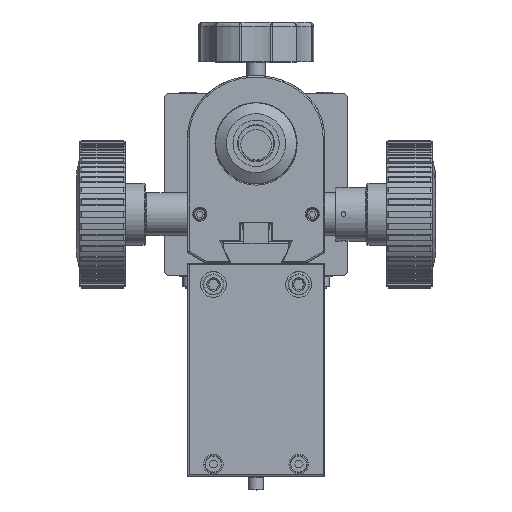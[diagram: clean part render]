
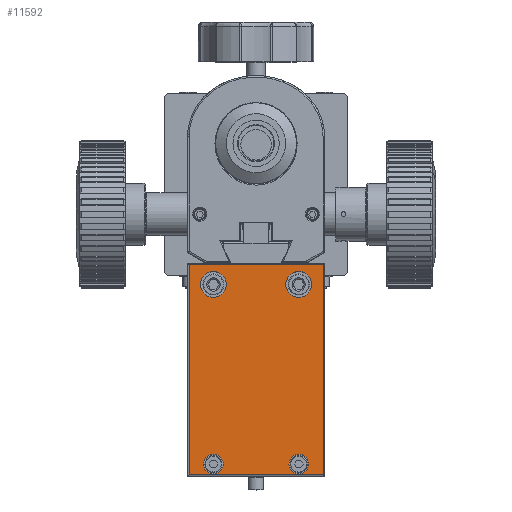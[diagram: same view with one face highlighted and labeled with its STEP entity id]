
A CAD part, top view. The second image highlights one B-rep face of the part: STEP entity #11592.
In plain terms, the highlighted planar face has unit normal (0, 0, 1).
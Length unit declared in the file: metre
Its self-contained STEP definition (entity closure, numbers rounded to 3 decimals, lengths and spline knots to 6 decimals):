
#11592=ADVANCED_FACE('0:9597',(#27209,#27210,#27211,#27212,#27213),#27214,.T.);
#13628=EDGE_CURVE('0:13283',#30377,#30380,#30381,.T.);
#13654=EDGE_CURVE('0:13259',#30380,#30418,#30419,.T.);
#13912=EDGE_CURVE('0:13232',#30418,#30793,#30794,.T.);
#15836=EDGE_CURVE('0:13301',#33525,#33525,#33526,.T.);
#16322=EDGE_CURVE('0:13211',#30793,#30377,#34171,.T.);
#16324=EDGE_CURVE('0:13307',#34173,#34173,#34174,.T.);
#16326=EDGE_CURVE('0:13313',#34176,#34176,#34177,.T.);
#16328=EDGE_CURVE('0:13319',#34179,#34179,#34180,.T.);
#27209=FACE_OUTER_BOUND('',#61879,.T.);
#27210=FACE_BOUND('',#61880,.T.);
#27211=FACE_BOUND('',#61881,.T.);
#27212=FACE_BOUND('',#61882,.T.);
#27213=FACE_BOUND('',#61883,.T.);
#27214=PLANE('',#61884);
#30377=VERTEX_POINT('',#76756);
#30380=VERTEX_POINT('',#76760);
#30381=LINE('',#76761,#76762);
#30418=VERTEX_POINT('',#76820);
#30419=LINE('',#76821,#76822);
#30793=VERTEX_POINT('',#77678);
#30794=LINE('',#77679,#77680);
#33525=VERTEX_POINT('',#83212);
#33526=CIRCLE('',#83213,0.00425);
#34171=LINE('',#84419,#84420);
#34173=VERTEX_POINT('',#84423);
#34174=CIRCLE('',#84424,0.00425);
#34176=VERTEX_POINT('',#84427);
#34177=CIRCLE('',#84428,0.0032);
#34179=VERTEX_POINT('',#84431);
#34180=CIRCLE('',#84432,0.0032);
#61879=EDGE_LOOP('',(#128492,#128493,#128494,#128495));
#61880=EDGE_LOOP('',(#128496));
#61881=EDGE_LOOP('',(#128497));
#61882=EDGE_LOOP('',(#128498));
#61883=EDGE_LOOP('',(#128499));
#61884=AXIS2_PLACEMENT_3D('',#128500,#128501,#128502);
#76756=CARTESIAN_POINT('',(0.02069,-0.006226,0.265215));
#76760=CARTESIAN_POINT('',(-0.02331,-0.006226,0.265215));
#76761=CARTESIAN_POINT('',(-0.026665,-0.006226,0.265215));
#76762=VECTOR('',#136767,1.0);
#76820=CARTESIAN_POINT('',(-0.02331,0.062774,0.265215));
#76821=CARTESIAN_POINT('',(-0.02331,0.013774,0.265215));
#76822=VECTOR('',#136788,1.0);
#77678=CARTESIAN_POINT('',(0.02069,0.062774,0.265215));
#77679=CARTESIAN_POINT('',(-0.026665,0.062774,0.265215));
#77680=VECTOR('',#136986,1.0);
#83212=CARTESIAN_POINT('',(-0.01956,0.056274,0.265215));
#83213=AXIS2_PLACEMENT_3D('',#138417,#138418,#138419);
#84419=CARTESIAN_POINT('',(0.02069,0.013774,0.265215));
#84420=VECTOR('',#138818,1.0);
#84423=CARTESIAN_POINT('',(0.00844,0.056274,0.265215));
#84424=AXIS2_PLACEMENT_3D('',#138819,#138820,#138821);
#84427=CARTESIAN_POINT('',(-0.01851,-0.002726,0.265215));
#84428=AXIS2_PLACEMENT_3D('',#138822,#138823,#138824);
#84431=CARTESIAN_POINT('',(0.00949,-0.002726,0.265215));
#84432=AXIS2_PLACEMENT_3D('',#138825,#138826,#138827);
#128492=ORIENTED_EDGE('',*,*,#16322,.F.);
#128493=ORIENTED_EDGE('',*,*,#13912,.F.);
#128494=ORIENTED_EDGE('',*,*,#13654,.F.);
#128495=ORIENTED_EDGE('',*,*,#13628,.F.);
#128496=ORIENTED_EDGE('',*,*,#15836,.F.);
#128497=ORIENTED_EDGE('',*,*,#16324,.F.);
#128498=ORIENTED_EDGE('',*,*,#16326,.F.);
#128499=ORIENTED_EDGE('',*,*,#16328,.F.);
#128500=CARTESIAN_POINT('',(-0.05202,-0.000726,0.265215));
#128501=DIRECTION('',(0.0,0.,1.0));
#128502=DIRECTION('',(0.0,-1.0,0.));
#136767=DIRECTION('',(-1.0,0.,0.));
#136788=DIRECTION('',(0.,1.0,0.));
#136986=DIRECTION('',(1.0,0.,0.));
#138417=CARTESIAN_POINT('',(-0.01531,0.056274,0.265215));
#138418=DIRECTION('',(0.,0.,1.0));
#138419=DIRECTION('',(-1.0,0.,0.));
#138818=DIRECTION('',(0.,-1.0,0.));
#138819=CARTESIAN_POINT('',(0.01269,0.056274,0.265215));
#138820=DIRECTION('',(0.,0.,1.0));
#138821=DIRECTION('',(-1.0,0.,0.));
#138822=CARTESIAN_POINT('',(-0.01531,-0.002726,0.265215));
#138823=DIRECTION('',(0.,0.,1.0));
#138824=DIRECTION('',(-1.0,0.,0.));
#138825=CARTESIAN_POINT('',(0.01269,-0.002726,0.265215));
#138826=DIRECTION('',(0.,0.,1.0));
#138827=DIRECTION('',(-1.0,0.,0.));
